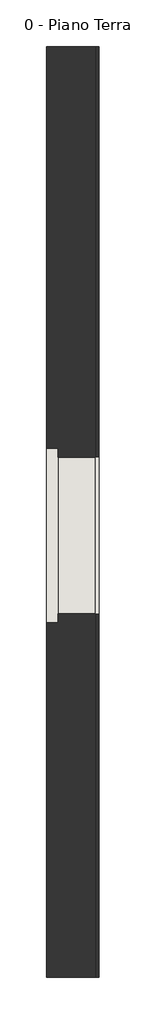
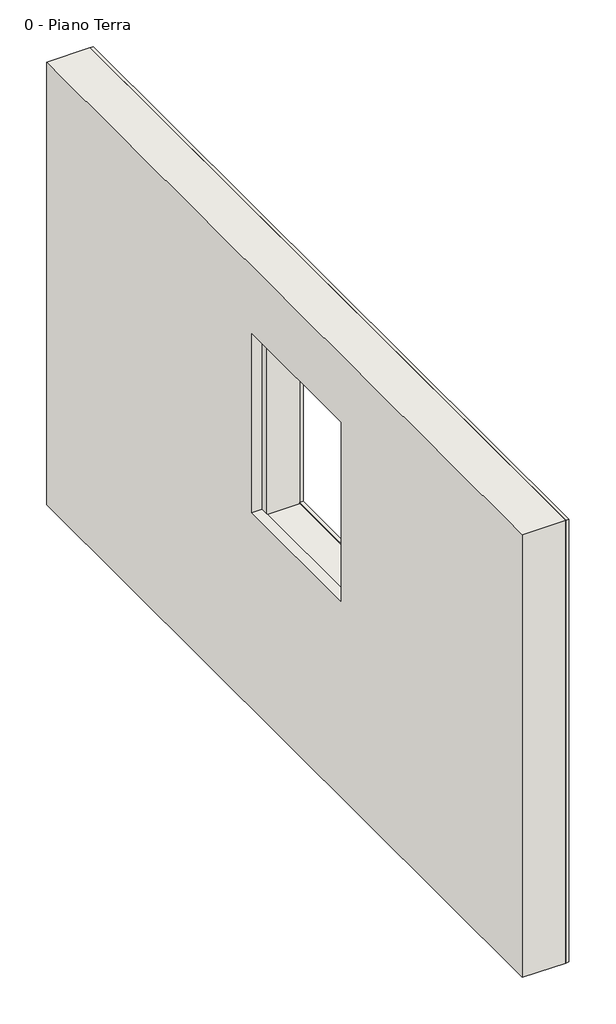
# One storey, incomplete: 2 walls.
"""IFC4 building model written with IfcOpenShell, lengths in millimetres."""

from ifc_helpers import new_model, si_unit, frame, origin, place, context, project, spatial, polyline, outline, extrude, faceted_brep, element, save

model = new_model("IFC4")

# Units and contexts
model_context = context("Model", 3, world=origin())
ifc_project = project(units=[si_unit("LENGTHUNIT", "METRE", prefix="MILLI")], contexts=[model_context])

# Site, building, storey
site = spatial("IfcSite", under=ifc_project)
building = spatial("IfcBuilding", under=site)
storey = spatial("IfcBuildingStorey", under=building, Name="0 - Piano Terra", Elevation=0.0)

# Walls
placement = place(None, origin())
element("IfcWall", 1, ObjectType="Muro in mattoni - 25 cm", at=placement, inside=storey, context=model_context, shape_type="Brep", body=[
    faceted_brep([(-13851.4183916, -8494.471025, 0.0), (-13851.4183916, -3744.471025, 0.0), (-13851.4183916, -3744.471025, 2700.0), (-13851.4183916, -8494.471025, 2700.0), (-13851.4183916, -5839.471025, 2241.0), (-13851.4183916, -5839.471025, 1191.0), (-13851.4183916, -6639.471025, 1191.0), (-13851.4183916, -6639.471025, 2241.0), (-14101.4183916, -8494.471025, 0.0), (-14101.4183916, -8494.471025, 2700.0), (-14101.4183916, -3744.471025, 2700.0), (-14101.4183916, -3744.471025, 0.0), (-14101.4183916, -6684.471025, 2286.0), (-14101.4183916, -6684.471025, 1196.0), (-14101.4183916, -5794.471025, 1196.0), (-14101.4183916, -5794.471025, 2286.0), (-14041.4183916, -6639.471025, 1191.0), (-14041.4183916, -5839.471025, 1191.0), (-14041.4183916, -5839.471025, 1196.0), (-14041.4183916, -6639.471025, 1196.0), (-14041.4183916, -5839.471025, 2241.0), (-14041.4183916, -6639.471025, 2241.0), (-14041.4183916, -6684.471025, 2286.0), (-14041.4183916, -5794.471025, 2286.0), (-14041.4183916, -5794.471025, 1196.0), (-14041.4183916, -6684.471025, 1196.0)], [[[0, 1, 2, 3], [4, 5, 6, 7]], [[8, 9, 10, 11], [12, 13, 14, 15]], [[1, 0, 8, 11]], [[2, 1, 11, 10]], [[3, 2, 10, 9]], [[0, 3, 9, 8]], [[16, 17, 18, 19]], [[17, 5, 4, 20, 18]], [[17, 16, 6, 5]], [[6, 16, 19, 21, 7]], [[20, 4, 7, 21]], [[22, 23, 24, 18, 20, 21, 19, 25]], [[22, 25, 13, 12]], [[13, 25, 19, 18, 24, 14]], [[24, 23, 15, 14]], [[23, 22, 12, 15]]]),
])
element("IfcWall", 2, ObjectType="intonaco", at=placement, inside=storey, context=model_context, shape_type="SweptSolid", body=[
    extrude(outline(polyline([(-3744.471025, 0.0), (-8494.471025, 0.0), (-8494.471025, 2700.0), (-3744.471025, 2700.0), (-3744.471025, 0.0)]), holes=[polyline([(-5839.5028245, 2240.0), (-6639.5028245, 2240.0), (-6639.5028245, 1200.0), (-5839.5028245, 1200.0), (-5839.5028245, 2240.0)])]), frame((-13851.4183916, 0.0, 0.0), z_axis=(1.0, 0.0, 0.0), x_axis=(0.0, 1.0, 0.0)), (0.0, 0.0, 1.0), 20.0),
])

save(model, "model.ifc")
